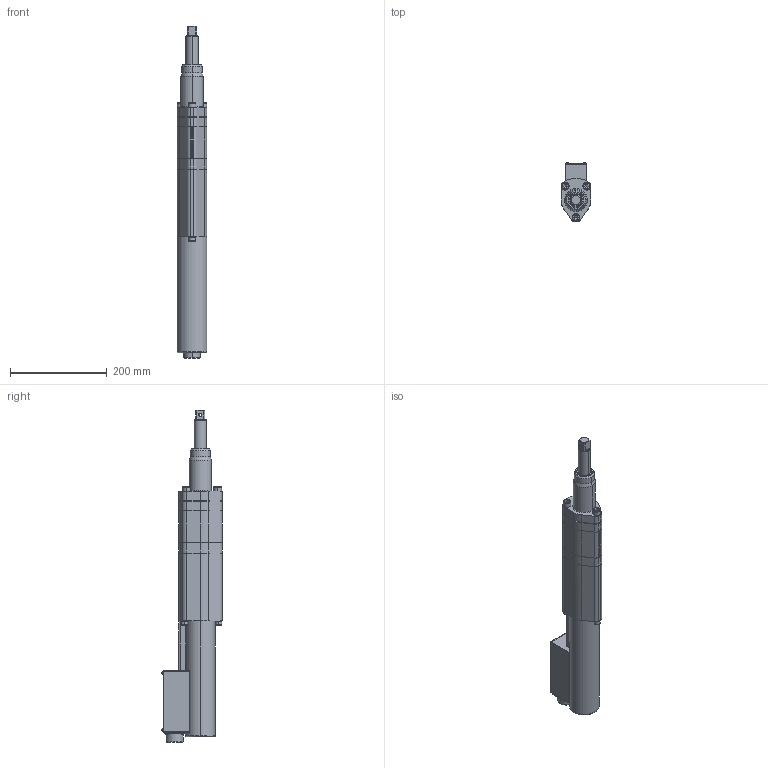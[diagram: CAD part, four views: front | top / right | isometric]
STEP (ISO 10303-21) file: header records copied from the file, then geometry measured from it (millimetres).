
FILE_DESCRIPTION (( 'STEP AP214' ), '1' );
FILE_NAME ('350禳踡粣.STEP', '2025-09-30T06:30:40', ( '' ), ( '' ), 'SwSTEP 2.0', 'SolidWorks 2021', '' );
FILE_SCHEMA (( 'AUTOMOTIVE_DESIGN' ));
Length unit declared in the file: millimetre
Products named in the file (1): 350禳踡粣
Bounding box: 62 x 124.35 x 687.5 mm (x, y, z)
Surface area: 211594.6 mm2 (no closed solid volume)
Topology: 0 solids, 32 shells, 374 faces, 1560 edges, 1198 vertices
Faces by surface type: plane 164, cylinder 145, cone 24, torus 21, sphere 20
Entity records: 22109 total; most frequent: CARTESIAN_POINT 4956, DIRECTION 2944, ORIENTED_EDGE 2276, EDGE_CURVE 1554, VERTEX_POINT 1198, AXIS2_PLACEMENT_3D 1180, CIRCLE 805, VECTOR 584
